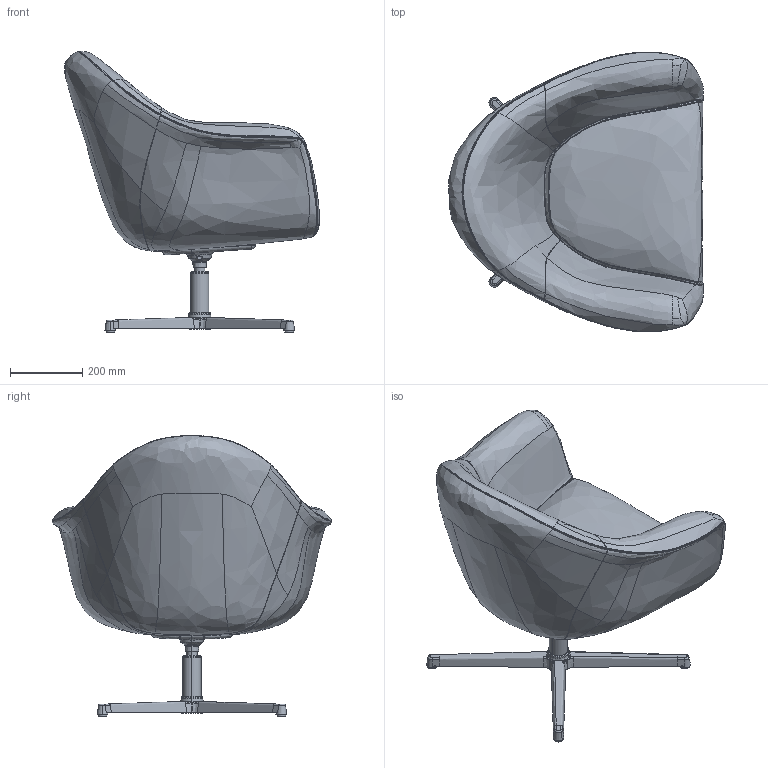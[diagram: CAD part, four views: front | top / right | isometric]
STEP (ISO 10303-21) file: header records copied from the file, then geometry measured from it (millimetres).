
FILE_DESCRIPTION (( 'STEP AP214' ), '1' );
FILE_NAME ('Harbour Lounge Chair w swivel Simplified.STEP', '2026-01-06T08:56:53', ( '' ), ( '' ), 'SwSTEP 2.0', 'SolidWorks 2024', '' );
FILE_SCHEMA (( 'AUTOMOTIVE_DESIGN' ));
Length unit declared in the file: millimetre
Products named in the file (4): Harbour_Lounge_Chair Final top; Harbour Lounge Chair w swivel Simplified; Harbour Kryds til marketing; seat carrier with new logo
Assembly tree (3 placements, depth 2):
  Harbour Lounge Chair w swivel Simplified
    seat carrier with new logo
    Harbour_Lounge_Chair Final top
    Harbour Kryds til marketing
Bounding box: 705.71 x 774.61 x 778.91 mm (x, y, z)
Volume: 82546236.2 mm3; surface area: 1977834.7 mm2
Topology: 9 solids, 9 shells, 873 faces, 2302 edges, 1458 vertices
Faces by surface type: bspline 499, plane 166, cylinder 104, cone 72, torus 30, sphere 2
Entity records: 104668 total; most frequent: CARTESIAN_POINT 87417, ORIENTED_EDGE 4586, EDGE_CURVE 2293, DIRECTION 1984, VERTEX_POINT 1458, B_SPLINE_CURVE_WITH_KNOTS 1340, EDGE_LOOP 905, ADVANCED_FACE 873
